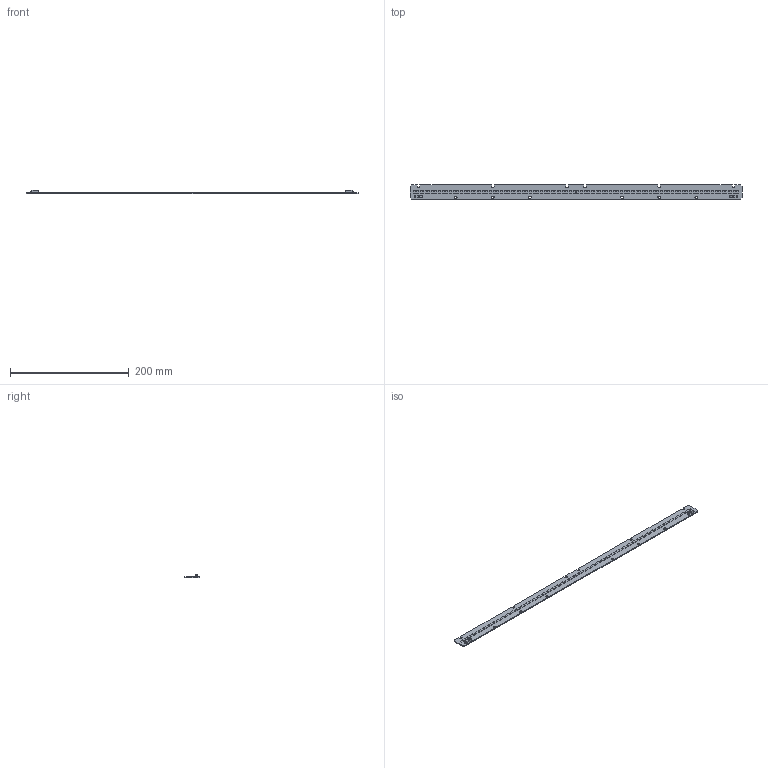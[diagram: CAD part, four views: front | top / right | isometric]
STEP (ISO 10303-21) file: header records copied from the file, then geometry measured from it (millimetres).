
FILE_DESCRIPTION((''),'2;1');
FILE_NAME('16207832_ILE-G2-24X560-EXC','2018-01-16T',('bernhard.fink'),(''),'PRO/ENGINEER BY PARAMETRIC TECHNOLOGY CORPORATION, 2015200','PRO/ENGINEER BY PARAMETRIC TECHNOLOGY CORPORATION, 2015200','');
FILE_SCHEMA(('AUTOMOTIVE_DESIGN { 1 0 10303 214 1 1 1 1 }'));
Length unit declared in the file: millimetre
Products named in the file (1): 16207832_ILE-G2-24X560-EXC
Bounding box: 559 x 23.6 x 6.15 mm (x, y, z)
Volume: 22599.1 mm3; surface area: 29736.2 mm2
Topology: 1 solids, 1 shells, 699 faces, 1798 edges, 1200 vertices
Faces by surface type: plane 615, cylinder 82, sphere 2
Entity records: 30199 total; most frequent: CARTESIAN_POINT 3859, ORIENTED_EDGE 3596, DIRECTION 3340, PRESENTATION_STYLE_ASSIGNMENT 2259, STYLED_ITEM 1799, CURVE_STYLE 1798, EDGE_CURVE 1798, VECTOR 1598
